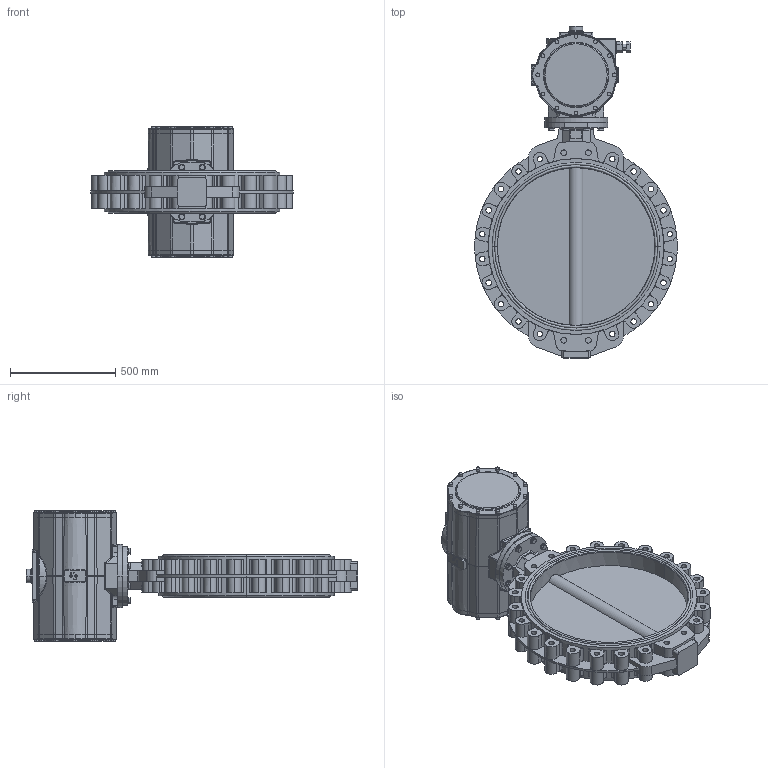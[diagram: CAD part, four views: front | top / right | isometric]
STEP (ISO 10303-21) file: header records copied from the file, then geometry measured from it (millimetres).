
FILE_DESCRIPTION (( 'STEP AP214' ), '1' );
FILE_NAME ('67726.step', '2020-10-26T07:15:30', ( '' ), ( '' ), 'SwSTEP 2.0', 'SolidWorks 2019', '' );
FILE_SCHEMA (( 'AUTOMOTIVE_DESIGN' ));
Length unit declared in the file: millimetre
Products named in the file (6): DA4000-V55_01; TL20-0750_M01; Flanschadapter F16-F25; U-Scheibe DIN 125 A_M16; 6kt-Schr DIN 933_M16x80; 67726
Assembly tree (19 placements, depth 2):
  67726
    TL20-0750_M01
    DA4000-V55_01
    6kt-Schr DIN 933_M16x80  x8
    U-Scheibe DIN 125 A_M16  x8
    Flanschadapter F16-F25
Bounding box: 963.54 x 1579 x 626 mm (x, y, z)
Volume: 132762949.8 mm3; surface area: 4681788.1 mm2
Topology: 20 solids, 20 shells, 1543 faces, 3769 edges, 2357 vertices
Faces by surface type: cylinder 659, plane 588, bspline 115, cone 102, torus 77, sphere 2
Entity records: 46624 total; most frequent: CARTESIAN_POINT 10830, DIRECTION 7046, ORIENTED_EDGE 6586, EDGE_CURVE 3293, AXIS2_PLACEMENT_3D 2787, VERTEX_POINT 2077, CIRCLE 1568, EDGE_LOOP 1482
